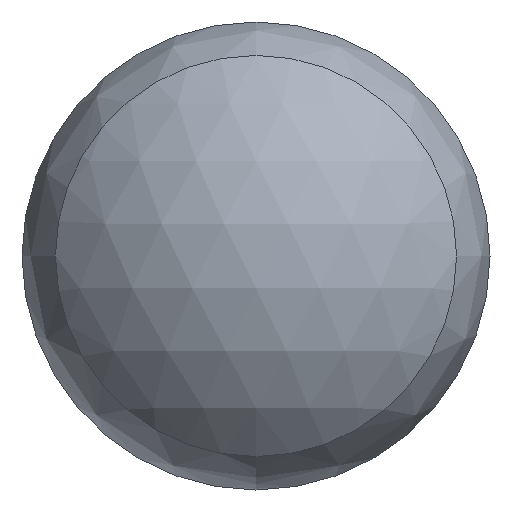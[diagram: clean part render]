
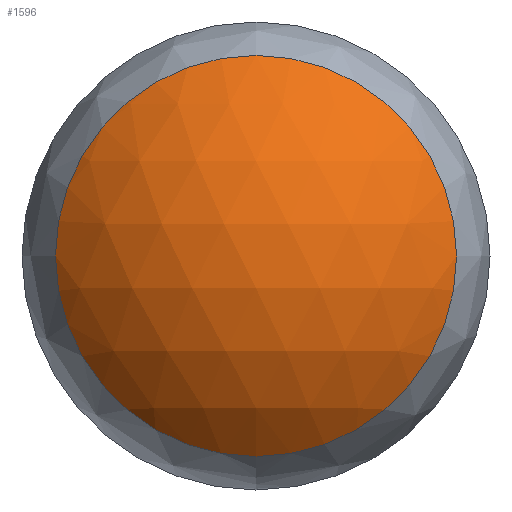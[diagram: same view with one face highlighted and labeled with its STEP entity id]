
A CAD part, front view. The second image highlights one B-rep face of the part: STEP entity #1596.
In plain terms, the highlighted spherical face has radius 20 mm.
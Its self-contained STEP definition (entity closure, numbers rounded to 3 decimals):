
#63=SPHERICAL_SURFACE('',#1735,20.);
#183=FACE_OUTER_BOUND('',#264,.T.);
#264=EDGE_LOOP('',(#1135));
#367=CIRCLE('',#1736,15.);
#639=VERTEX_POINT('',#2494);
#827=EDGE_CURVE('',#639,#639,#367,.T.);
#1135=ORIENTED_EDGE('',*,*,#827,.F.);
#1596=ADVANCED_FACE('',(#183),#63,.T.);
#1735=AXIS2_PLACEMENT_3D('',#2493,#1990,#1991);
#1736=AXIS2_PLACEMENT_3D('',#2495,#1992,#1993);
#1990=DIRECTION('center_axis',(0.,0.,1.));
#1991=DIRECTION('ref_axis',(1.,0.,0.));
#1992=DIRECTION('center_axis',(0.,1.,0.));
#1993=DIRECTION('ref_axis',(1.,0.,0.));
#2493=CARTESIAN_POINT('Origin',(0.,20.,0.));
#2494=CARTESIAN_POINT('',(0.,6.771,-15.));
#2495=CARTESIAN_POINT('Origin',(0.,6.771,0.));
